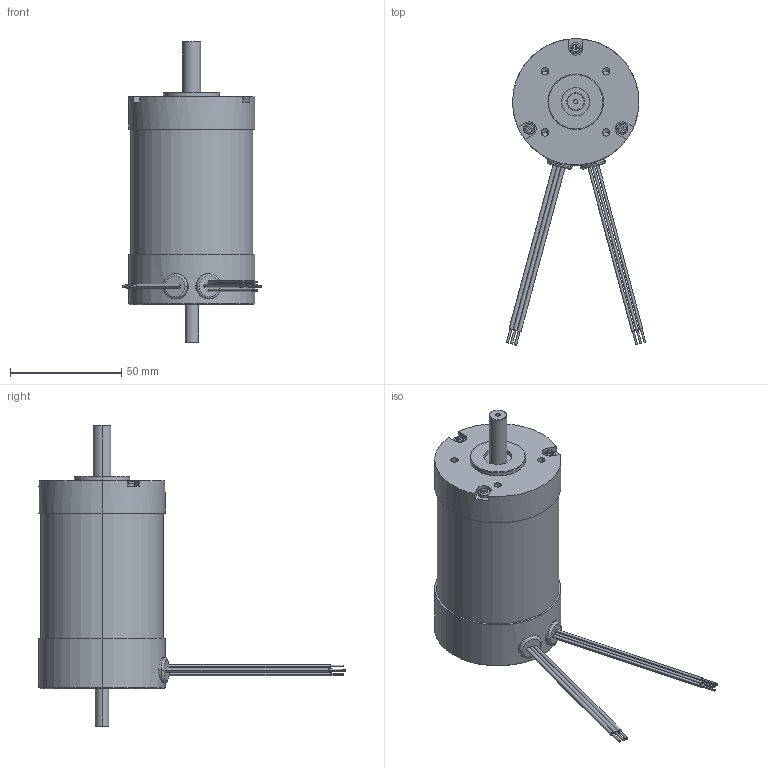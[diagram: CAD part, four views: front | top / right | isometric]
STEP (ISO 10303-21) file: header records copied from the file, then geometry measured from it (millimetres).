
FILE_DESCRIPTION (( 'STEP AP214' ), '1' );
FILE_NAME ('BLWR234D.STEP', '2013-07-24T21:46:49', ( '' ), ( '' ), 'SwSTEP 2.0', 'SolidWorks 2013', '' );
FILE_SCHEMA (( 'AUTOMOTIVE_DESIGN' ));
Length unit declared in the file: inch
Products named in the file (1): BLWR234D
Bounding box: 62.81 x 137.75 x 135.64 mm (x, y, z)
Volume: 231172.9 mm3; surface area: 27193.8 mm2
Topology: 1 solids, 1 shells, 289 faces, 707 edges, 444 vertices
Faces by surface type: plane 129, cylinder 110, cone 36, torus 14
Entity records: 12486 total; most frequent: CARTESIAN_POINT 1851, DIRECTION 1487, ORIENTED_EDGE 1378, EDGE_CURVE 689, AXIS2_PLACEMENT_3D 580, VERTEX_POINT 444, EDGE_LOOP 331, VECTOR 327
